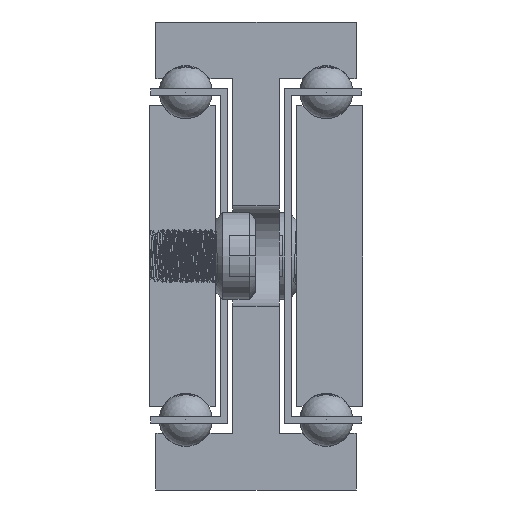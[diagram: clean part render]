
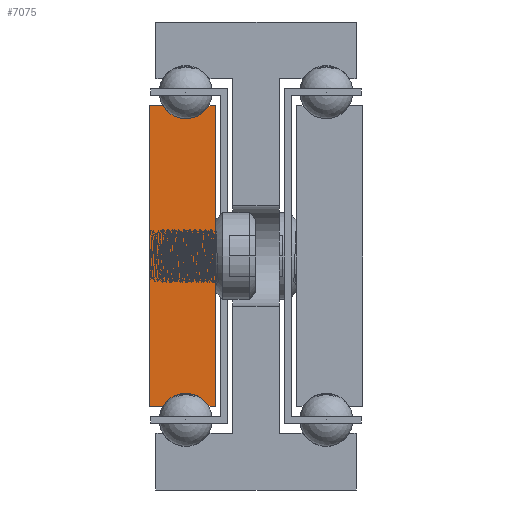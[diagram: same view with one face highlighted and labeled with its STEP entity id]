
A CAD part, front view. The second image highlights one B-rep face of the part: STEP entity #7075.
In plain terms, the highlighted planar face has unit normal (0, -1, 0).
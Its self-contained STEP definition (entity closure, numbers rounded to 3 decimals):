
#1157=CIRCLE('',#7619,4.);
#1159=CIRCLE('',#7625,4.);
#1769=FACE_OUTER_BOUND('',#2229,.T.);
#2229=EDGE_LOOP('',(#5606,#5607,#5608,#5609,#5610,#5611,#5612,#5613));
#3008=LINE('',#98657,#3220);
#3011=LINE('',#98663,#3223);
#3015=LINE('',#98675,#3227);
#3018=LINE('',#98681,#3230);
#3021=LINE('',#98687,#3233);
#3025=LINE('',#98697,#3237);
#3220=VECTOR('',#8538,1.);
#3223=VECTOR('',#8543,1.);
#3227=VECTOR('',#8555,1.);
#3230=VECTOR('',#8560,1.);
#3233=VECTOR('',#8565,1.);
#3237=VECTOR('',#8577,1.);
#3520=VERTEX_POINT('',#98654);
#3521=VERTEX_POINT('',#98656);
#3523=VERTEX_POINT('',#98662);
#3525=VERTEX_POINT('',#98668);
#3527=VERTEX_POINT('',#98674);
#3529=VERTEX_POINT('',#98680);
#3531=VERTEX_POINT('',#98686);
#3533=VERTEX_POINT('',#98692);
#4422=EDGE_CURVE('',#3521,#3520,#3008,.T.);
#4425=EDGE_CURVE('',#3523,#3521,#3011,.T.);
#4428=EDGE_CURVE('',#3525,#3523,#1157,.T.);
#4431=EDGE_CURVE('',#3527,#3525,#3015,.T.);
#4434=EDGE_CURVE('',#3529,#3527,#3018,.T.);
#4437=EDGE_CURVE('',#3531,#3529,#3021,.T.);
#4440=EDGE_CURVE('',#3533,#3531,#1159,.T.);
#4443=EDGE_CURVE('',#3520,#3533,#3025,.T.);
#5606=ORIENTED_EDGE('',*,*,#4443,.T.);
#5607=ORIENTED_EDGE('',*,*,#4440,.T.);
#5608=ORIENTED_EDGE('',*,*,#4437,.T.);
#5609=ORIENTED_EDGE('',*,*,#4434,.T.);
#5610=ORIENTED_EDGE('',*,*,#4431,.T.);
#5611=ORIENTED_EDGE('',*,*,#4428,.T.);
#5612=ORIENTED_EDGE('',*,*,#4425,.T.);
#5613=ORIENTED_EDGE('',*,*,#4422,.T.);
#6929=PLANE('',#7628);
#7075=ADVANCED_FACE('',(#1769),#6929,.T.);
#7619=AXIS2_PLACEMENT_3D('',#98669,#8549,#8550);
#7625=AXIS2_PLACEMENT_3D('',#98693,#8571,#8572);
#7628=AXIS2_PLACEMENT_3D('',#98699,#8580,#8581);
#8538=DIRECTION('',(0.,0.,-1.));
#8543=DIRECTION('',(-1.,0.,0.));
#8549=DIRECTION('center_axis',(0.,1.,0.));
#8550=DIRECTION('ref_axis',(-0.866,0.,-0.5));
#8555=DIRECTION('',(-1.,0.,0.));
#8560=DIRECTION('',(0.,0.,1.));
#8565=DIRECTION('',(1.,0.,0.));
#8571=DIRECTION('center_axis',(0.,1.,0.));
#8572=DIRECTION('ref_axis',(0.866,0.,0.5));
#8577=DIRECTION('',(1.,0.,0.));
#8580=DIRECTION('center_axis',(0.,-1.,0.));
#8581=DIRECTION('ref_axis',(1.,0.,0.));
#98654=CARTESIAN_POINT('',(-1962.791,-1553.889,-57.5));
#98656=CARTESIAN_POINT('',(-1962.791,-1553.889,-12.5));
#98657=CARTESIAN_POINT('',(-1962.791,-1553.889,-57.5));
#98662=CARTESIAN_POINT('',(-1960.755,-1553.889,-12.5));
#98663=CARTESIAN_POINT('',(-1962.791,-1553.889,-12.5));
#98668=CARTESIAN_POINT('',(-1953.827,-1553.889,-12.5));
#98669=CARTESIAN_POINT('Origin',(-1957.291,-1553.889,-10.5));
#98674=CARTESIAN_POINT('',(-1952.791,-1553.889,-12.5));
#98675=CARTESIAN_POINT('',(-1953.827,-1553.889,-12.5));
#98680=CARTESIAN_POINT('',(-1952.791,-1553.889,-57.5));
#98681=CARTESIAN_POINT('',(-1952.791,-1553.889,-12.5));
#98686=CARTESIAN_POINT('',(-1953.827,-1553.889,-57.5));
#98687=CARTESIAN_POINT('',(-1952.791,-1553.889,-57.5));
#98692=CARTESIAN_POINT('',(-1960.755,-1553.889,-57.5));
#98693=CARTESIAN_POINT('Origin',(-1957.291,-1553.889,-59.5));
#98697=CARTESIAN_POINT('',(-1960.755,-1553.889,-57.5));
#98699=CARTESIAN_POINT('Origin',(-1957.797,-1553.889,-35.));
